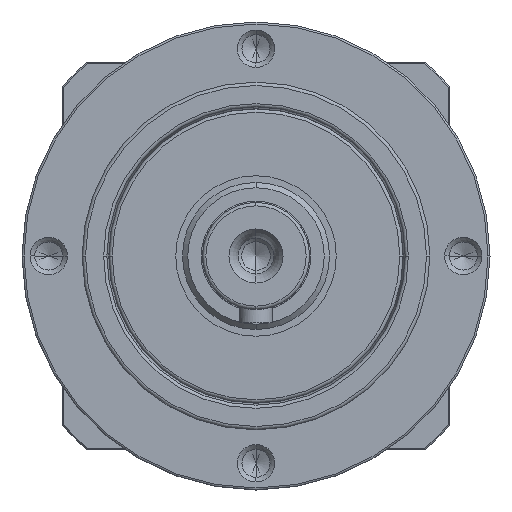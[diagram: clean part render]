
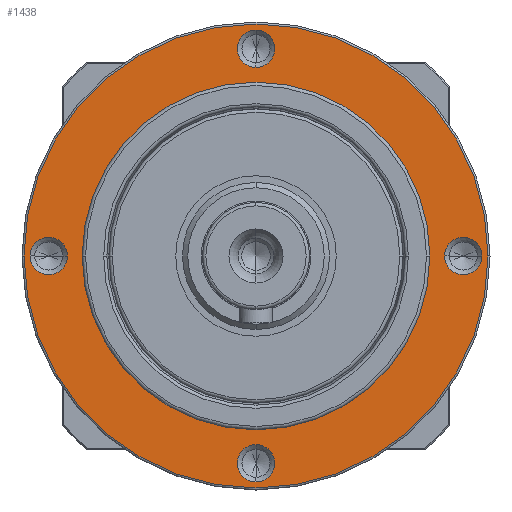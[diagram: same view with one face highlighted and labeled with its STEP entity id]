
A CAD part, left-side view. The second image highlights one B-rep face of the part: STEP entity #1438.
In plain terms, the highlighted planar face has unit normal (-1, 0, 0).
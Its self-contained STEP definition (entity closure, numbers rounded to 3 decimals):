
#252=CARTESIAN_POINT('',(4.5,31.,0.));
#253=DIRECTION('',(1.,0.,0.));
#254=DIRECTION('',(0.,-1.,0.));
#255=AXIS2_PLACEMENT_3D('',#252,#253,#254);
#257=CARTESIAN_POINT('',(4.5,31.,0.));
#258=DIRECTION('',(1.,0.,0.));
#259=DIRECTION('',(0.,1.,0.));
#260=AXIS2_PLACEMENT_3D('',#257,#258,#259);
#262=CARTESIAN_POINT('',(4.5,0.,-31.));
#263=DIRECTION('',(1.,0.,0.));
#264=DIRECTION('',(0.,0.,-1.));
#265=AXIS2_PLACEMENT_3D('',#262,#263,#264);
#267=CARTESIAN_POINT('',(4.5,0.,-31.));
#268=DIRECTION('',(1.,0.,0.));
#269=DIRECTION('',(0.,0.,1.));
#270=AXIS2_PLACEMENT_3D('',#267,#268,#269);
#272=CARTESIAN_POINT('',(4.5,-31.,0.));
#273=DIRECTION('',(1.,0.,0.));
#274=DIRECTION('',(0.,-1.,0.));
#275=AXIS2_PLACEMENT_3D('',#272,#273,#274);
#277=CARTESIAN_POINT('',(4.5,-31.,0.));
#278=DIRECTION('',(1.,0.,0.));
#279=DIRECTION('',(0.,1.,0.));
#280=AXIS2_PLACEMENT_3D('',#277,#278,#279);
#282=CARTESIAN_POINT('',(4.5,0.,31.));
#283=DIRECTION('',(1.,0.,0.));
#284=DIRECTION('',(0.,0.,1.));
#285=AXIS2_PLACEMENT_3D('',#282,#283,#284);
#287=CARTESIAN_POINT('',(4.5,0.,31.));
#288=DIRECTION('',(1.,0.,0.));
#289=DIRECTION('',(0.,0.,-1.));
#290=AXIS2_PLACEMENT_3D('',#287,#288,#289);
#292=CARTESIAN_POINT('',(4.5,0.,0.));
#293=DIRECTION('',(1.,0.,0.));
#294=DIRECTION('',(0.,1.,0.));
#295=AXIS2_PLACEMENT_3D('',#292,#293,#294);
#297=CARTESIAN_POINT('',(4.5,0.,0.));
#298=DIRECTION('',(1.,0.,0.));
#299=DIRECTION('',(0.,-1.,0.));
#300=AXIS2_PLACEMENT_3D('',#297,#298,#299);
#302=CARTESIAN_POINT('',(4.5,0.,0.));
#303=DIRECTION('',(-1.,0.,0.));
#304=DIRECTION('',(0.,1.,0.));
#305=AXIS2_PLACEMENT_3D('',#302,#303,#304);
#307=CARTESIAN_POINT('',(4.5,0.,0.));
#308=DIRECTION('',(-1.,0.,0.));
#309=DIRECTION('',(0.,-1.,0.));
#310=AXIS2_PLACEMENT_3D('',#307,#308,#309);
#903=CARTESIAN_POINT('',(4.5,28.2,0.));
#904=CARTESIAN_POINT('',(4.5,33.8,0.));
#905=VERTEX_POINT('',#903);
#906=VERTEX_POINT('',#904);
#907=CARTESIAN_POINT('',(4.5,0.,-33.8));
#908=CARTESIAN_POINT('',(4.5,0.,-28.2));
#909=VERTEX_POINT('',#907);
#910=VERTEX_POINT('',#908);
#911=CARTESIAN_POINT('',(4.5,-33.8,0.));
#912=CARTESIAN_POINT('',(4.5,-28.2,0.));
#913=VERTEX_POINT('',#911);
#914=VERTEX_POINT('',#912);
#915=CARTESIAN_POINT('',(4.5,0.,33.8));
#916=CARTESIAN_POINT('',(4.5,0.,28.2));
#917=VERTEX_POINT('',#915);
#918=VERTEX_POINT('',#916);
#947=CARTESIAN_POINT('',(4.5,34.7,0.));
#948=CARTESIAN_POINT('',(4.5,-34.7,0.));
#949=VERTEX_POINT('',#947);
#950=VERTEX_POINT('',#948);
#967=CARTESIAN_POINT('',(4.5,26.,0.));
#968=CARTESIAN_POINT('',(4.5,-26.,0.));
#969=VERTEX_POINT('',#967);
#970=VERTEX_POINT('',#968);
#1398=CARTESIAN_POINT('',(4.5,0.,0.));
#1399=DIRECTION('',(-1.,0.,0.));
#1400=DIRECTION('',(0.,1.,0.));
#1401=AXIS2_PLACEMENT_3D('',#1398,#1399,#1400);
#1402=PLANE('',#1401);
#1404=ORIENTED_EDGE('',*,*,#1403,.T.);
#1406=ORIENTED_EDGE('',*,*,#1405,.T.);
#1407=EDGE_LOOP('',(#1404,#1406));
#1408=FACE_OUTER_BOUND('',#1407,.F.);
#1410=ORIENTED_EDGE('',*,*,#1409,.F.);
#1412=ORIENTED_EDGE('',*,*,#1411,.F.);
#1413=EDGE_LOOP('',(#1410,#1412));
#1414=FACE_BOUND('',#1413,.F.);
#1416=ORIENTED_EDGE('',*,*,#1415,.F.);
#1418=ORIENTED_EDGE('',*,*,#1417,.F.);
#1419=EDGE_LOOP('',(#1416,#1418));
#1420=FACE_BOUND('',#1419,.F.);
#1422=ORIENTED_EDGE('',*,*,#1421,.F.);
#1424=ORIENTED_EDGE('',*,*,#1423,.F.);
#1425=EDGE_LOOP('',(#1422,#1424));
#1426=FACE_BOUND('',#1425,.F.);
#1428=ORIENTED_EDGE('',*,*,#1427,.F.);
#1430=ORIENTED_EDGE('',*,*,#1429,.F.);
#1431=EDGE_LOOP('',(#1428,#1430));
#1432=FACE_BOUND('',#1431,.F.);
#1434=ORIENTED_EDGE('',*,*,#1433,.T.);
#1435=ORIENTED_EDGE('',*,*,#1388,.T.);
#1436=EDGE_LOOP('',(#1434,#1435));
#1437=FACE_BOUND('',#1436,.F.);
#1438=ADVANCED_FACE('',(#1408,#1414,#1420,#1426,#1432,#1437),#1402,.T.);
#256=CIRCLE('',#255,2.8);
#261=CIRCLE('',#260,2.8);
#266=CIRCLE('',#265,2.8);
#271=CIRCLE('',#270,2.8);
#276=CIRCLE('',#275,2.8);
#281=CIRCLE('',#280,2.8);
#286=CIRCLE('',#285,2.8);
#291=CIRCLE('',#290,2.8);
#296=CIRCLE('',#295,34.7);
#301=CIRCLE('',#300,34.7);
#306=CIRCLE('',#305,26.);
#311=CIRCLE('',#310,26.);
#1388=EDGE_CURVE('',#970,#969,#311,.T.);
#1403=EDGE_CURVE('',#949,#950,#296,.T.);
#1405=EDGE_CURVE('',#950,#949,#301,.T.);
#1409=EDGE_CURVE('',#905,#906,#256,.T.);
#1411=EDGE_CURVE('',#906,#905,#261,.T.);
#1415=EDGE_CURVE('',#909,#910,#266,.T.);
#1417=EDGE_CURVE('',#910,#909,#271,.T.);
#1421=EDGE_CURVE('',#913,#914,#276,.T.);
#1423=EDGE_CURVE('',#914,#913,#281,.T.);
#1427=EDGE_CURVE('',#917,#918,#286,.T.);
#1429=EDGE_CURVE('',#918,#917,#291,.T.);
#1433=EDGE_CURVE('',#969,#970,#306,.T.);
